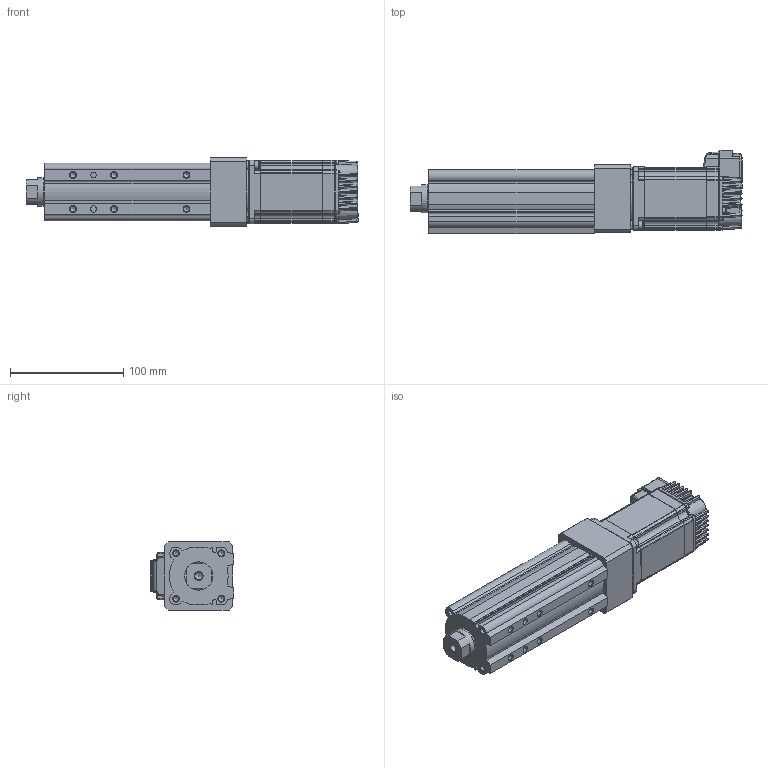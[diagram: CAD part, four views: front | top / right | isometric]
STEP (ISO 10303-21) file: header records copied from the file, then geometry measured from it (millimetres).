
FILE_DESCRIPTION (( 'STEP AP214' ), '1' );
FILE_NAME ('LEY3(+)-32DNM1□-50-23L.STEP', '2023-04-06T07:52:33', ( '' ), ( '' ), 'SwSTEP 2.0', 'SolidWorks 2019', '' );
FILE_SCHEMA (( 'AUTOMOTIVE_DESIGN' ));
Length unit declared in the file: millimetre
Products named in the file (5): LEY3(+)-32NM1?_ROD_50; CM3(+)-23L50A_2-M4_01; LEY3(+)-32DNM1_MOTOR Flange; LEY3(+)-32NM1?_BODY_50; LEY3(+)-32DNM1□-50-23L
Assembly tree (4 placements, depth 2):
  LEY3(+)-32DNM1□-50-23L
    LEY3(+)-32NM1?_BODY_50
    LEY3(+)-32NM1?_ROD_50
    LEY3(+)-32DNM1_MOTOR Flange
    CM3(+)-23L50A_2-M4_01
Bounding box: 292.8 x 73.75 x 60 mm (x, y, z)
Volume: 732316.8 mm3; surface area: 120211.8 mm2
Topology: 4 solids, 13 shells, 1439 faces, 3713 edges, 2295 vertices
Faces by surface type: plane 668, cylinder 432, bspline 133, cone 101, torus 58, sphere 47
Full cylindrical faces by diameter (mm): 2.5 x4, 3 x2, 3.2 x4, 4.2 x1, 4.5 x7, 4.9 x10, 5 x1, 6.2 x4, 6.35 x1, 6.8 x1, 7 x2, 8 x2, 24.8 x1, 25 x2, 32 x2, 38.1 x1
Entity records: 49056 total; most frequent: CARTESIAN_POINT 12638, ORIENTED_EDGE 7102, DIRECTION 6555, EDGE_CURVE 3551, VERTEX_POINT 2267, AXIS2_PLACEMENT_3D 2230, VECTOR 2095, LINE 2095
